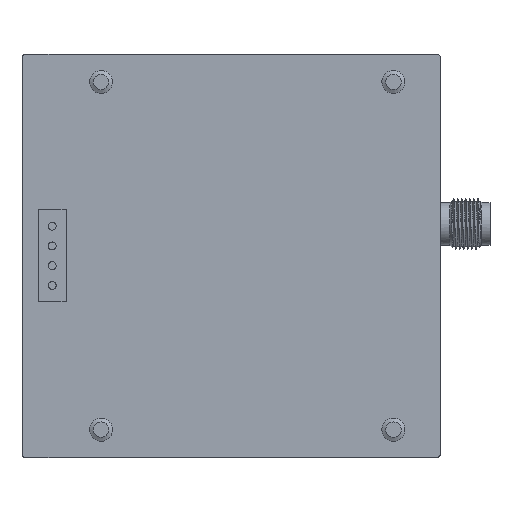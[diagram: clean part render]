
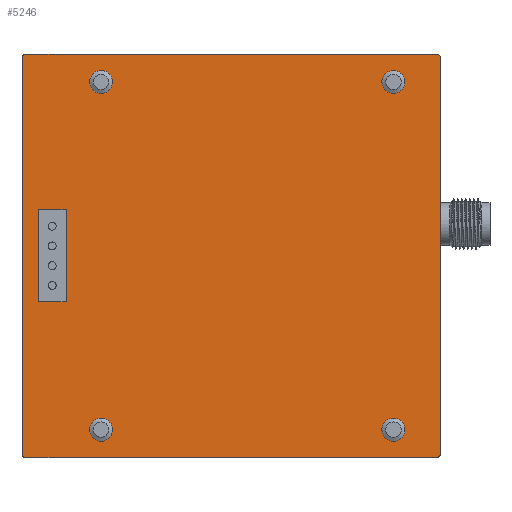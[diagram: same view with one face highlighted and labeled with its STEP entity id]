
A CAD part, top view. The second image highlights one B-rep face of the part: STEP entity #5246.
In plain terms, the highlighted planar face has unit normal (0, 0, 1).
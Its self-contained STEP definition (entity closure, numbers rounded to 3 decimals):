
#277=FACE_BOUND('',#1013,.T.);
#291=CIRCLE('',#5555,0.5);
#296=CIRCLE('',#5563,0.5);
#305=CIRCLE('',#5580,0.5);
#309=CIRCLE('',#5586,0.5);
#692=FACE_OUTER_BOUND('',#1012,.T.);
#1012=EDGE_LOOP('',(#3596,#3597,#3598,#3599,#3600,#3601,#3602,#3603));
#1013=EDGE_LOOP('',(#3604,#3605,#3606,#3607));
#1303=LINE('',#8017,#1717);
#1307=LINE('',#8025,#1721);
#1310=LINE('',#8031,#1724);
#1313=LINE('',#8036,#1727);
#1321=LINE('',#8077,#1735);
#1324=LINE('',#8083,#1738);
#1329=LINE('',#8106,#1743);
#1334=LINE('',#8127,#1748);
#1717=VECTOR('',#6233,10.);
#1721=VECTOR('',#6239,10.);
#1724=VECTOR('',#6244,10.);
#1727=VECTOR('',#6249,10.);
#1735=VECTOR('',#6295,10.);
#1738=VECTOR('',#6300,10.);
#1743=VECTOR('',#6325,10.);
#1748=VECTOR('',#6354,10.);
#2131=VERTEX_POINT('',#8015);
#2132=VERTEX_POINT('',#8016);
#2135=VERTEX_POINT('',#8024);
#2137=VERTEX_POINT('',#8030);
#2143=VERTEX_POINT('',#8048);
#2144=VERTEX_POINT('',#8049);
#2150=VERTEX_POINT('',#8067);
#2151=VERTEX_POINT('',#8068);
#2154=VERTEX_POINT('',#8081);
#2162=VERTEX_POINT('',#8105);
#2163=VERTEX_POINT('',#8109);
#2166=VERTEX_POINT('',#8120);
#2664=EDGE_CURVE('',#2131,#2132,#1303,.T.);
#2668=EDGE_CURVE('',#2135,#2131,#1307,.T.);
#2671=EDGE_CURVE('',#2137,#2135,#1310,.T.);
#2674=EDGE_CURVE('',#2132,#2137,#1313,.T.);
#2680=EDGE_CURVE('',#2143,#2144,#291,.T.);
#2689=EDGE_CURVE('',#2150,#2151,#296,.T.);
#2694=EDGE_CURVE('',#2143,#2151,#1321,.T.);
#2697=EDGE_CURVE('',#2150,#2154,#1324,.T.);
#2708=EDGE_CURVE('',#2162,#2144,#1329,.T.);
#2710=EDGE_CURVE('',#2163,#2154,#305,.T.);
#2716=EDGE_CURVE('',#2162,#2166,#309,.T.);
#2719=EDGE_CURVE('',#2163,#2166,#1334,.T.);
#3596=ORIENTED_EDGE('',*,*,#2680,.F.);
#3597=ORIENTED_EDGE('',*,*,#2694,.T.);
#3598=ORIENTED_EDGE('',*,*,#2689,.F.);
#3599=ORIENTED_EDGE('',*,*,#2697,.T.);
#3600=ORIENTED_EDGE('',*,*,#2710,.F.);
#3601=ORIENTED_EDGE('',*,*,#2719,.T.);
#3602=ORIENTED_EDGE('',*,*,#2716,.F.);
#3603=ORIENTED_EDGE('',*,*,#2708,.T.);
#3604=ORIENTED_EDGE('',*,*,#2664,.T.);
#3605=ORIENTED_EDGE('',*,*,#2674,.T.);
#3606=ORIENTED_EDGE('',*,*,#2671,.T.);
#3607=ORIENTED_EDGE('',*,*,#2668,.T.);
#5124=PLANE('',#5605);
#5246=ADVANCED_FACE('',(#692,#277),#5124,.T.);
#5555=AXIS2_PLACEMENT_3D('',#8050,#6263,#6264);
#5563=AXIS2_PLACEMENT_3D('',#8069,#6283,#6284);
#5580=AXIS2_PLACEMENT_3D('',#8110,#6329,#6330);
#5586=AXIS2_PLACEMENT_3D('',#8121,#6343,#6344);
#5605=AXIS2_PLACEMENT_3D('',#8152,#6388,#6389);
#6233=DIRECTION('',(0.,-1.,0.));
#6239=DIRECTION('',(1.,0.,0.));
#6244=DIRECTION('',(0.,1.,0.));
#6249=DIRECTION('',(-1.,0.,0.));
#6263=DIRECTION('center_axis',(0.,0.,-1.));
#6264=DIRECTION('ref_axis',(-0.707,-0.707,0.));
#6283=DIRECTION('center_axis',(0.,0.,-1.));
#6284=DIRECTION('ref_axis',(0.707,-0.707,0.));
#6295=DIRECTION('',(1.,0.,0.));
#6300=DIRECTION('',(0.,1.,0.));
#6325=DIRECTION('',(0.,-1.,0.));
#6329=DIRECTION('center_axis',(0.,0.,-1.));
#6330=DIRECTION('ref_axis',(0.707,0.707,0.));
#6343=DIRECTION('center_axis',(0.,0.,-1.));
#6344=DIRECTION('ref_axis',(-0.707,0.707,0.));
#6354=DIRECTION('',(-1.,0.,0.));
#6388=DIRECTION('center_axis',(0.,0.,1.));
#6389=DIRECTION('ref_axis',(1.,0.,0.));
#8015=CARTESIAN_POINT('',(5.582,30.83,10.));
#8016=CARTESIAN_POINT('',(5.582,19.17,10.));
#8017=CARTESIAN_POINT('',(5.582,27.915,10.));
#8024=CARTESIAN_POINT('',(2.082,30.83,10.));
#8025=CARTESIAN_POINT('',(13.541,30.83,10.));
#8030=CARTESIAN_POINT('',(2.082,19.17,10.));
#8031=CARTESIAN_POINT('',(2.082,22.085,10.));
#8036=CARTESIAN_POINT('',(15.291,19.17,10.));
#8048=CARTESIAN_POINT('',(0.5,-0.5,10.));
#8049=CARTESIAN_POINT('',(0.,0.,10.));
#8050=CARTESIAN_POINT('Origin',(0.5,0.,10.));
#8067=CARTESIAN_POINT('',(53.,0.,10.));
#8068=CARTESIAN_POINT('',(52.5,-0.5,10.));
#8069=CARTESIAN_POINT('Origin',(52.5,0.,10.));
#8077=CARTESIAN_POINT('',(0.,-0.5,10.));
#8081=CARTESIAN_POINT('',(53.,50.,10.));
#8083=CARTESIAN_POINT('',(53.,0.,10.));
#8105=CARTESIAN_POINT('',(0.,50.,10.));
#8106=CARTESIAN_POINT('',(0.,50.,10.));
#8109=CARTESIAN_POINT('',(52.5,50.5,10.));
#8110=CARTESIAN_POINT('Origin',(52.5,50.,10.));
#8120=CARTESIAN_POINT('',(0.5,50.5,10.));
#8121=CARTESIAN_POINT('Origin',(0.5,50.,10.));
#8127=CARTESIAN_POINT('',(50.,50.5,10.));
#8152=CARTESIAN_POINT('Origin',(25.,25.,10.));
